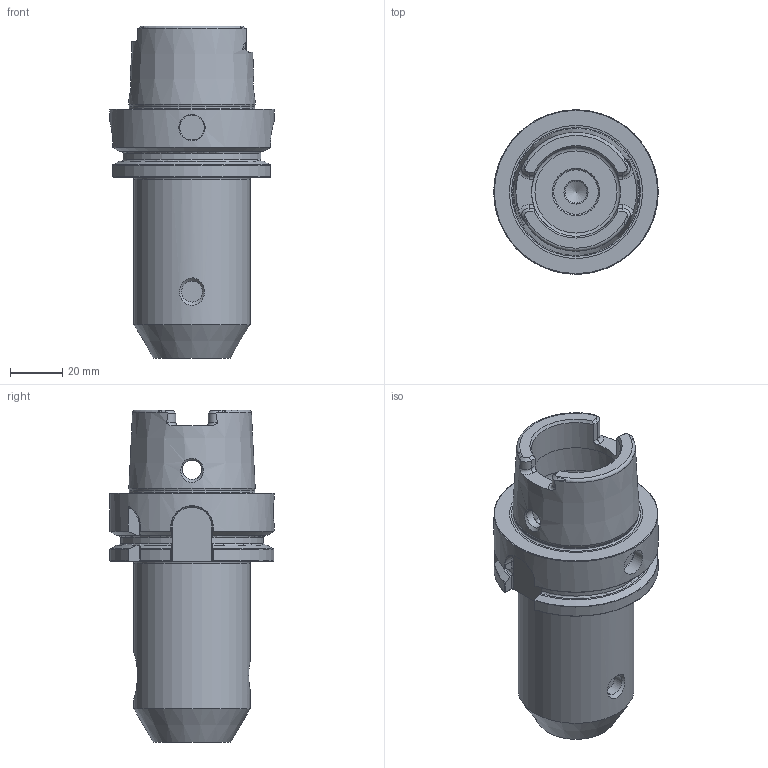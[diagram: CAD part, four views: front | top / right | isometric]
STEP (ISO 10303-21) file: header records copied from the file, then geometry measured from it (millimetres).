
FILE_DESCRIPTION(/* description */ (''),/* implementation_level */ '2;1');
FILE_NAME(/* name */ 'HSK63AEM075375_GTM.stp',/* time_stamp */ '2016-10-06T08:13:32+01:00',/* author */ (''),/* organization */ (''),/* preprocessor_version */ 'ST-DEVELOPER v15',/* originating_system */ 'SIEMENS PLM Software NX 9.0',/* authorisation */ '');
FILE_SCHEMA (('AUTOMOTIVE_DESIGN { 1 0 10303 214 3 1 1 1 }'));
Length unit declared in the file: millimetre
Products named in the file (1): HSK63AEM075375_GTM
Bounding box: 62.94 x 62.94 x 127.15 mm (x, y, z)
Volume: 166281.1 mm3; surface area: 35734.9 mm2
Topology: 2 solids, 2 shells, 194 faces, 507 edges, 321 vertices
Faces by surface type: plane 67, cylinder 53, torus 36, cone 32, bspline 6
Full cylindrical faces by diameter (mm): 7.5 x2, 8 x1, 8.4 x1, 10.045 x1, 13.627 x1, 15.875 x1, 17.035 x1, 18.55 x1, 19.05 x1, 19.816 x1, 34.05 x2, 40.08 x1, 44.45 x1, 47.941 x1, 62.94 x1
Entity records: 7521 total; most frequent: CARTESIAN_POINT 3215, ORIENTED_EDGE 866, DIRECTION 837, EDGE_CURVE 433, AXIS2_PLACEMENT_3D 345, VERTEX_POINT 296, EDGE_LOOP 250, ADVANCED_FACE 193
